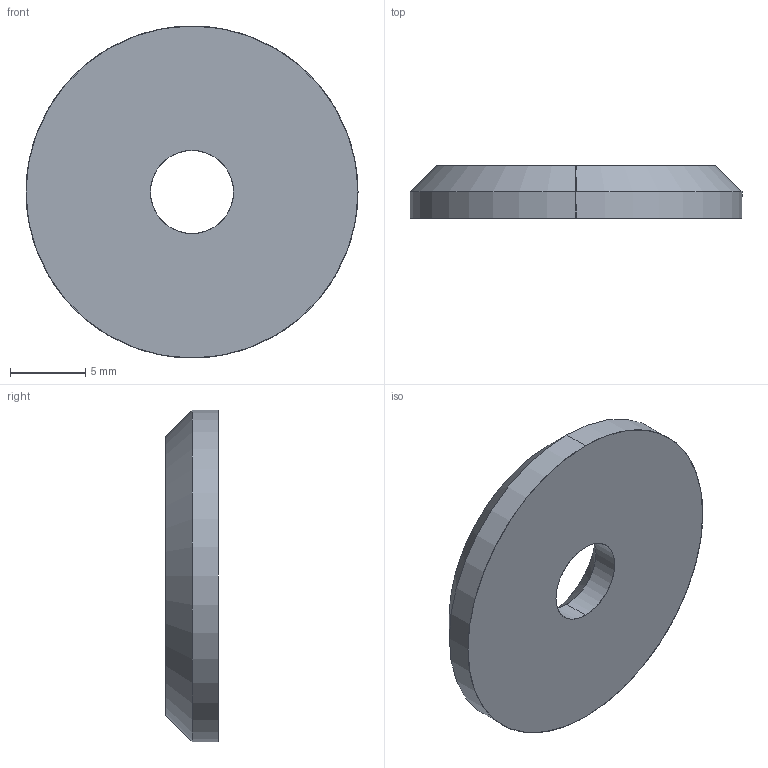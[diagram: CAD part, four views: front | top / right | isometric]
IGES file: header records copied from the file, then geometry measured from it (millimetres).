
Start section: SolidWorks IGES file using analytic representation for surfaces
Global section: file name: C:\Documents and Settings\IANO\Desktop\Temp File\Process pending\EXISTING\36720_v2\36720_v2_20170629_IGES\36720.W0022.igs; native system: SolidWorks 2009; preprocessor: SolidWorks 2009; author: IANO; date: 170627.110803; units: millimetre
Bounding box: 22 x 3.5 x 22 mm (x, y, z)
Surface area: 926.6 mm2 (no closed solid volume)
Topology: 0 solids, 0 shells, 10 faces, 160 edges, 160 vertices
Faces by surface type: revolution 8, bspline 2
